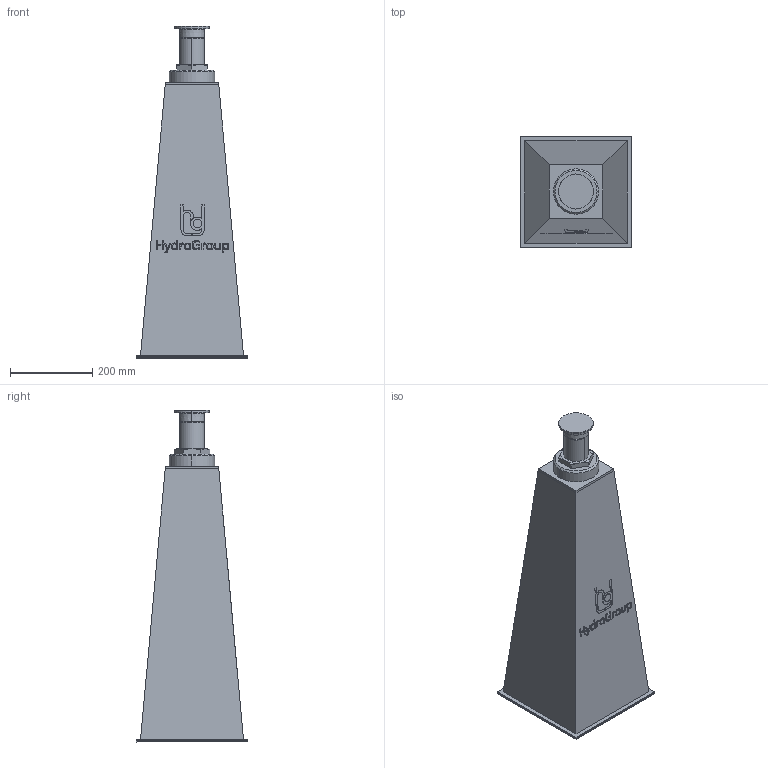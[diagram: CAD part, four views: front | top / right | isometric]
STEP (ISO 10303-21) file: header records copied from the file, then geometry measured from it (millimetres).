
FILE_DESCRIPTION(('STEP AP214'),'1');
FILE_NAME('RSRFE-I-09-V1.stp','2018-06-27T13:34:22',(' '),(' '),'Spatial InterOp 3D',' ',' ');
FILE_SCHEMA(('automotive_design'));
Length unit declared in the file: millimetre
Products named in the file (6): 1; 2; 3; 4; 5; 6
Bounding box: 270 x 270 x 806 mm (x, y, z)
Volume: 26168632 mm3; surface area: 873033.1 mm2
Topology: 6 solids, 6 shells, 217 faces, 534 edges, 349 vertices
Faces by surface type: plane 136, cylinder 33, extrusion 24, cone 20, torus 4
Entity records: 8758 total; most frequent: CARTESIAN_POINT 1780, ORIENTED_EDGE 1068, DIRECTION 993, EDGE_CURVE 534, VECTOR 401, LINE 377, VERTEX_POINT 349, AXIS2_PLACEMENT_3D 296
